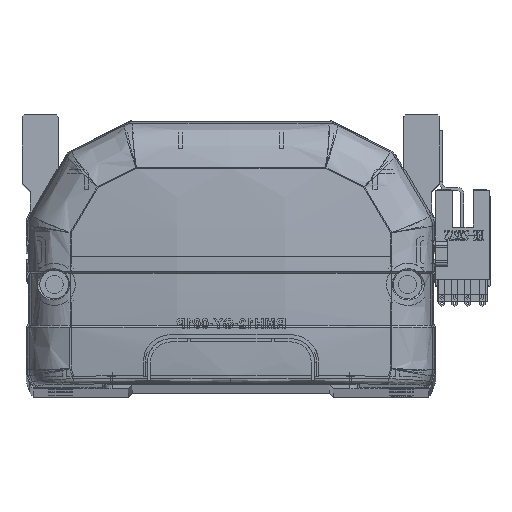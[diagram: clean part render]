
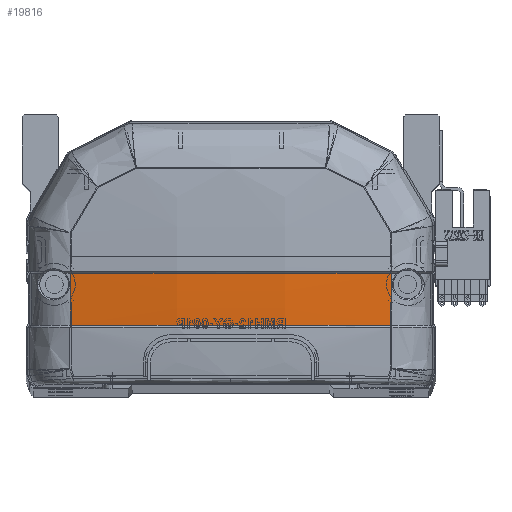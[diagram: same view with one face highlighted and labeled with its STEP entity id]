
A CAD part, top view. The second image highlights one B-rep face of the part: STEP entity #19816.
In plain terms, the highlighted free-form (B-spline) face has degree [3, 3] with [4, 4] control points.
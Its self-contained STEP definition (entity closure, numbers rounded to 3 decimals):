
#2432 = CARTESIAN_POINT ( 'NONE',  ( 13.375, 28.707, -9.468 ) ) ;
#2669 = ORIENTED_EDGE ( 'NONE', *, *, #59626, .F. ) ;
#3542 = ORIENTED_EDGE ( 'NONE', *, *, #5332, .F. ) ;
#4823 = B_SPLINE_CURVE_WITH_KNOTS ( 'NONE', 3,
 ( #21461, #26327, #56619, #56405 ),
 .UNSPECIFIED., .F., .F.,
 ( 4, 4 ),
 ( 0., 1. ),
 .UNSPECIFIED. ) ;
#4875 = CARTESIAN_POINT ( 'NONE',  ( -13.598, 28.769, -10.535 ) ) ;
#5332 = EDGE_CURVE ( 'NONE', #35322, #45246, #45572, .T. ) ;
#6479 = CARTESIAN_POINT ( 'NONE',  ( 26.749, 28.706, -8.432 ) ) ;
#8845 = CARTESIAN_POINT ( 'NONE',  ( 26.761, 15.83, -7.945 ) ) ;
#13545 = CARTESIAN_POINT ( 'NONE',  ( -40.461, 20.111, -6.066 ) ) ;
#14531 = B_SPLINE_CURVE_WITH_KNOTS ( 'NONE', 3,
 ( #28318, #23253, #37782, #18001 ),
 .UNSPECIFIED., .F., .F.,
 ( 4, 4 ),
 ( 0., 1. ),
 .UNSPECIFIED. ) ;
#15840 = ORIENTED_EDGE ( 'NONE', *, *, #48988, .T. ) ;
#18001 = CARTESIAN_POINT ( 'NONE',  ( -39.985, 15.83, -5.879 ) ) ;
#18306 = CARTESIAN_POINT ( 'NONE',  ( 39.985, 15.83, -5.879 ) ) ;
#18358 = CARTESIAN_POINT ( 'NONE',  ( -40.461, 28.832, -6.296 ) ) ;
#18570 = CARTESIAN_POINT ( 'NONE',  ( 40.461, 15.757, -5.8 ) ) ;
#19206 = CARTESIAN_POINT ( 'NONE',  ( -13.598, 24.342, -10.47 ) ) ;
#19816 = ADVANCED_FACE ( 'NONE', ( #37262 ), #37123, .F. ) ;
#20356 = B_SPLINE_CURVE_WITH_KNOTS ( 'NONE', 3,
 ( #45847, #35389, #50100, #2432, #6479, #25890 ),
 .UNSPECIFIED., .F., .F.,
 ( 4, 2, 4 ),
 ( 0., 0.5, 1. ),
 .UNSPECIFIED. ) ;
#20600 = VERTEX_POINT ( 'NONE', #47744 ) ;
#21461 = CARTESIAN_POINT ( 'NONE',  ( 39.985, 15.83, -5.879 ) ) ;
#23253 = CARTESIAN_POINT ( 'NONE',  ( -39.966, 24.412, -6.306 ) ) ;
#23422 = CARTESIAN_POINT ( 'NONE',  ( 40.461, 24.47, -6.231 ) ) ;
#24640 = CARTESIAN_POINT ( 'NONE',  ( -13.384, 15.83, -8.724 ) ) ;
#25890 = CARTESIAN_POINT ( 'NONE',  ( 39.963, 28.706, -6.372 ) ) ;
#26326 = CARTESIAN_POINT ( 'NONE',  ( 39.963, 28.706, -6.372 ) ) ;
#26327 = CARTESIAN_POINT ( 'NONE',  ( 39.973, 20.12, -6.142 ) ) ;
#28318 = CARTESIAN_POINT ( 'NONE',  ( -39.963, 28.706, -6.372 ) ) ;
#28701 = CARTESIAN_POINT ( 'NONE',  ( 13.598, 19.918, -10.302 ) ) ;
#33728 = CARTESIAN_POINT ( 'NONE',  ( -36.679, 15.83, -6.395 ) ) ;
#33866 = CARTESIAN_POINT ( 'NONE',  ( 39.985, 15.83, -5.879 ) ) ;
#35322 = VERTEX_POINT ( 'NONE', #33866 ) ;
#35389 = CARTESIAN_POINT ( 'NONE',  ( -26.748, 28.706, -8.432 ) ) ;
#36656 = EDGE_CURVE ( 'NONE', #20600, #45246, #14531, .T. ) ;
#37123 =( BOUNDED_SURFACE ( )  B_SPLINE_SURFACE ( 3, 3, ( 
 ( #18570, #52083, #23422, #38162 ),
 ( #62186, #28701, #57135, #62406 ),
 ( #61973, #38375, #19206, #4875 ),
 ( #38587, #13545, #47212, #18358 ) ),
 .UNSPECIFIED., .F., .F., .F. ) 
 B_SPLINE_SURFACE_WITH_KNOTS ( ( 4, 4 ),
 ( 4, 4 ),
 ( 0., 1. ),
 ( 0., 1. ),
 .UNSPECIFIED. ) 
 GEOMETRIC_REPRESENTATION_ITEM ( )  RATIONAL_B_SPLINE_SURFACE ( (
 ( 1., 1., 1., 1.),
 ( 0.992, 0.992, 0.992, 0.992),
 ( 0.992, 0.992, 0.992, 0.992),
 ( 1., 1., 1., 1.) ) ) 
 REPRESENTATION_ITEM ( '' )  SURFACE ( )  );
#37262 = FACE_OUTER_BOUND ( 'NONE', #44710, .T. ) ;
#37782 = CARTESIAN_POINT ( 'NONE',  ( -39.973, 20.118, -6.142 ) ) ;
#38162 = CARTESIAN_POINT ( 'NONE',  ( 40.461, 28.832, -6.296 ) ) ;
#38337 = CARTESIAN_POINT ( 'NONE',  ( -39.985, 15.83, -5.879 ) ) ;
#38375 = CARTESIAN_POINT ( 'NONE',  ( -13.598, 19.918, -10.302 ) ) ;
#38587 = CARTESIAN_POINT ( 'NONE',  ( -40.461, 15.757, -5.8 ) ) ;
#42945 = CARTESIAN_POINT ( 'NONE',  ( -23.389, 15.83, -7.947 ) ) ;
#44710 = EDGE_LOOP ( 'NONE', ( #15840, #2669, #55410, #3542 ) ) ;
#45246 = VERTEX_POINT ( 'NONE', #60342 ) ;
#45572 = B_SPLINE_CURVE_WITH_KNOTS ( 'NONE', 3,
 ( #18306, #8845, #61935, #46765, #24640, #42945, #58327, #53077, #33728, #38337 ),
 .UNSPECIFIED., .F., .F.,
 ( 4, 2, 2, 2, 4 ),
 ( 0., 0.04, 0.06, 0.07, 0.08 ),
 .UNSPECIFIED. ) ;
#45847 = CARTESIAN_POINT ( 'NONE',  ( -39.963, 28.706, -6.372 ) ) ;
#46765 = CARTESIAN_POINT ( 'NONE',  ( -6.692, 15.83, -8.984 ) ) ;
#47212 = CARTESIAN_POINT ( 'NONE',  ( -40.461, 24.47, -6.231 ) ) ;
#47744 = CARTESIAN_POINT ( 'NONE',  ( -39.963, 28.706, -6.372 ) ) ;
#48988 = EDGE_CURVE ( 'NONE', #35322, #56074, #4823, .T. ) ;
#50100 = CARTESIAN_POINT ( 'NONE',  ( -13.373, 28.707, -9.468 ) ) ;
#52083 = CARTESIAN_POINT ( 'NONE',  ( 40.461, 20.111, -6.066 ) ) ;
#53077 = CARTESIAN_POINT ( 'NONE',  ( -33.365, 15.83, -6.848 ) ) ;
#55410 = ORIENTED_EDGE ( 'NONE', *, *, #36656, .T. ) ;
#56074 = VERTEX_POINT ( 'NONE', #26326 ) ;
#56405 = CARTESIAN_POINT ( 'NONE',  ( 39.963, 28.706, -6.372 ) ) ;
#56619 = CARTESIAN_POINT ( 'NONE',  ( 39.966, 24.413, -6.306 ) ) ;
#57135 = CARTESIAN_POINT ( 'NONE',  ( 13.598, 24.342, -10.47 ) ) ;
#58327 = CARTESIAN_POINT ( 'NONE',  ( -26.721, 15.83, -7.624 ) ) ;
#59626 = EDGE_CURVE ( 'NONE', #20600, #56074, #20356, .T. ) ;
#60342 = CARTESIAN_POINT ( 'NONE',  ( -39.985, 15.83, -5.879 ) ) ;
#61935 = CARTESIAN_POINT ( 'NONE',  ( 13.38, 15.83, -8.984 ) ) ;
#61973 = CARTESIAN_POINT ( 'NONE',  ( -13.598, 15.499, -10.032 ) ) ;
#62186 = CARTESIAN_POINT ( 'NONE',  ( 13.598, 15.499, -10.032 ) ) ;
#62406 = CARTESIAN_POINT ( 'NONE',  ( 13.598, 28.769, -10.535 ) ) ;
